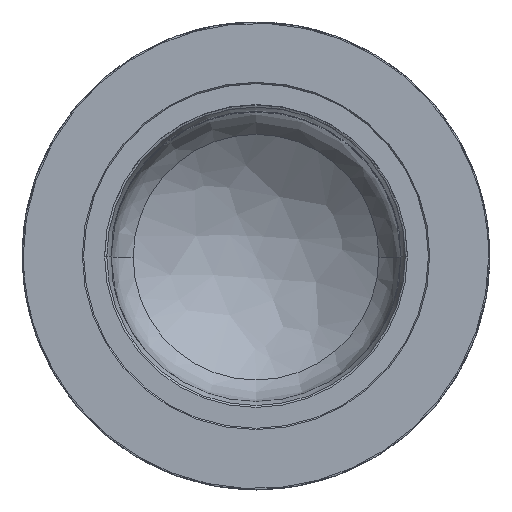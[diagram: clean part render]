
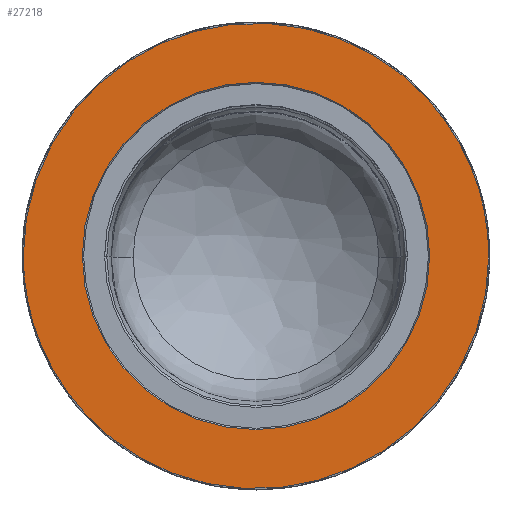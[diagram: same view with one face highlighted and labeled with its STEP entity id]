
A CAD part, top view. The second image highlights one B-rep face of the part: STEP entity #27218.
In plain terms, the highlighted planar face has unit normal (0, 0, 1).
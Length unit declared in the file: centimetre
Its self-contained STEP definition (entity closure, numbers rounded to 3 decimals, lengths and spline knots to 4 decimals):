
#1533 =( BOUNDED_CURVE ( )  B_SPLINE_CURVE ( 3, ( #16595, #16597, #16606, #16609 ),
 .UNSPECIFIED., .F., .F. ) 
 B_SPLINE_CURVE_WITH_KNOTS ( ( 4, 4 ),
 ( 0., 0.5 ),
 .UNSPECIFIED. ) 
 CURVE ( )  GEOMETRIC_REPRESENTATION_ITEM ( )  RATIONAL_B_SPLINE_CURVE ( ( 1., 0.333, 0.333, 1. ) ) 
 REPRESENTATION_ITEM ( '' )  );
#1648 = AXIS2_PLACEMENT_3D ( 'NONE', #21056, #21062, #21063 ) ;
#2421 = AXIS2_PLACEMENT_3D ( 'NONE', #23923, #23924, #23925 ) ;
#5939 = AXIS2_PLACEMENT_3D ( 'NONE', #7089, #7090, #7091 ) ;
#7089 = CARTESIAN_POINT ( 'NONE',  ( 0., 0., 0. ) ) ;
#7090 = DIRECTION ( 'NONE',  ( 0., 0., -1. ) ) ;
#7091 = DIRECTION ( 'NONE',  ( 1., 0., 0. ) ) ;
#7347 = EDGE_CURVE ( 'NONE', #26002, #25779, #15100, .T. ) ;
#7348 = EDGE_CURVE ( 'NONE', #25996, #25918, #26968, .T. ) ;
#10437 = FACE_OUTER_BOUND ( 'NONE', #26346, .T. ) ;
#10441 = FACE_BOUND ( 'NONE', #26348, .T. ) ;
#15100 =( BOUNDED_CURVE ( )  B_SPLINE_CURVE ( 3, ( #23919, #23898, #23908, #23920 ),
 .UNSPECIFIED., .F., .T. ) 
 B_SPLINE_CURVE_WITH_KNOTS ( ( 4, 4 ),
 ( 0.5, 1. ),
 .UNSPECIFIED. ) 
 CURVE ( )  GEOMETRIC_REPRESENTATION_ITEM ( )  RATIONAL_B_SPLINE_CURVE ( ( 1., 0.333, 0.333, 1. ) ) 
 REPRESENTATION_ITEM ( '' )  );
#16595 = CARTESIAN_POINT ( 'NONE',  ( 4.7244, 0., 0. ) ) ;
#16597 = CARTESIAN_POINT ( 'NONE',  ( 4.7244, -9.4488, 0. ) ) ;
#16606 = CARTESIAN_POINT ( 'NONE',  ( -4.7244, -9.4488, 0. ) ) ;
#16609 = CARTESIAN_POINT ( 'NONE',  ( -4.7244, 0., 0. ) ) ;
#18883 = CIRCLE ( 'NONE', #5939, 3.5255 ) ;
#19271 = CARTESIAN_POINT ( 'NONE',  ( 4.7244, 0., 0. ) ) ;
#19410 = CARTESIAN_POINT ( 'NONE',  ( 3.5255, 0., 0. ) ) ;
#19488 = CARTESIAN_POINT ( 'NONE',  ( -3.5255, 0., 0. ) ) ;
#19494 = CARTESIAN_POINT ( 'NONE',  ( -4.7244, 0., 0. ) ) ;
#21056 = CARTESIAN_POINT ( 'NONE',  ( 3.5001, 0., 0. ) ) ;
#21057 = PLANE ( 'NONE',  #1648 ) ;
#21062 = DIRECTION ( 'NONE',  ( 0., 0., 1. ) ) ;
#21063 = DIRECTION ( 'NONE',  ( 1., 0., 0. ) ) ;
#23898 = CARTESIAN_POINT ( 'NONE',  ( -4.7244, 9.4488, 0. ) ) ;
#23908 = CARTESIAN_POINT ( 'NONE',  ( 4.7244, 9.4488, 0. ) ) ;
#23919 = CARTESIAN_POINT ( 'NONE',  ( -4.7244, 0., 0. ) ) ;
#23920 = CARTESIAN_POINT ( 'NONE',  ( 4.7244, 0., 0. ) ) ;
#23923 = CARTESIAN_POINT ( 'NONE',  ( 0., 0., 0. ) ) ;
#23924 = DIRECTION ( 'NONE',  ( 0., 0., -1. ) ) ;
#23925 = DIRECTION ( 'NONE',  ( 1., 0., 0. ) ) ;
#25779 = VERTEX_POINT ( 'NONE', #19271 ) ;
#25918 = VERTEX_POINT ( 'NONE', #19410 ) ;
#25996 = VERTEX_POINT ( 'NONE', #19488 ) ;
#26002 = VERTEX_POINT ( 'NONE', #19494 ) ;
#26346 = EDGE_LOOP ( 'NONE', ( #26575, #26576 ) ) ;
#26348 = EDGE_LOOP ( 'NONE', ( #26577, #26578 ) ) ;
#26575 = ORIENTED_EDGE ( 'NONE', *, *, #27788, .F. ) ;
#26576 = ORIENTED_EDGE ( 'NONE', *, *, #7347, .F. ) ;
#26577 = ORIENTED_EDGE ( 'NONE', *, *, #27662, .T. ) ;
#26578 = ORIENTED_EDGE ( 'NONE', *, *, #7348, .T. ) ;
#26968 = CIRCLE ( 'NONE', #2421, 3.5255 ) ;
#27218 = ADVANCED_FACE ( 'NONE', ( #10437, #10441 ), #21057, .T. ) ;
#27662 = EDGE_CURVE ( 'NONE', #25918, #25996, #18883, .T. ) ;
#27788 = EDGE_CURVE ( 'NONE', #25779, #26002, #1533, .T. ) ;
